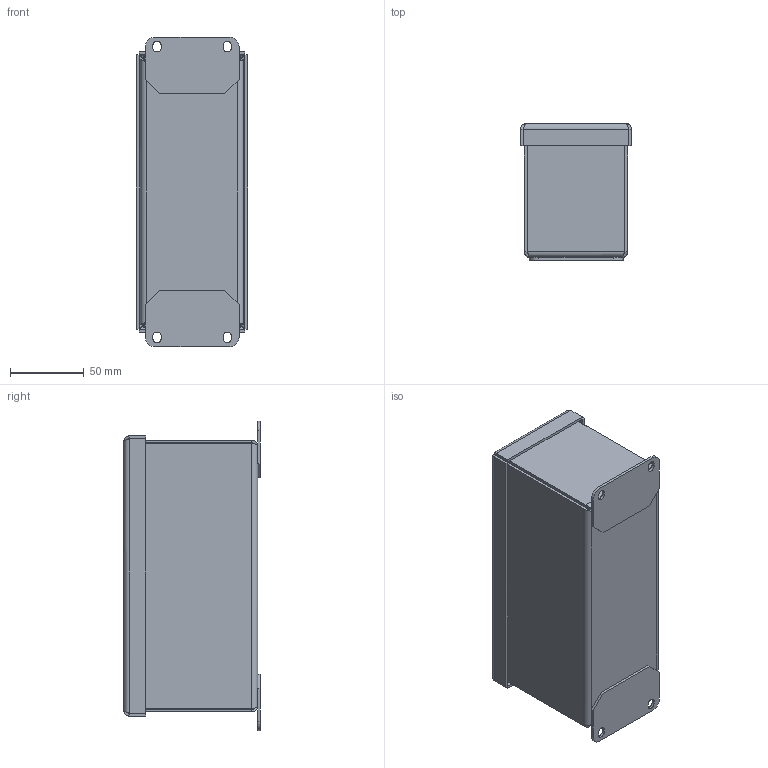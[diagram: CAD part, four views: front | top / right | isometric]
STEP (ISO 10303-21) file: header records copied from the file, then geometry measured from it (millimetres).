
FILE_DESCRIPTION (( 'STEP AP214' ), '1' );
FILE_NAME ('e3pbgxm.STEP', '2007-12-04T20:26:48', ( '' ), ( '' ), 'SwSTEP 2.0', 'SolidWorks 2007', '' );
FILE_SCHEMA (( 'AUTOMOTIVE_DESIGN' ));
Length unit declared in the file: inch
Products named in the file (6): Mounting_Foot_11258787; Body_Pushbutton_3PBGXM; Cover_Pushbutton_E3PBGXM; wmt_cover_E3PBGXM; e3pbgxm; stud_gnd_10-32x500
Assembly tree (6 placements, depth 3):
  e3pbgxm
    wmt_cover_E3PBGXM
      Cover_Pushbutton_E3PBGXM
      stud_gnd_10-32x500
    Body_Pushbutton_3PBGXM
    Mounting_Foot_11258787  x2
Bounding box: 75.44 x 92.56 x 209.55 mm (x, y, z)
Volume: 147866.5 mm3; surface area: 167090 mm2
Topology: 5 solids, 5 shells, 269 faces, 676 edges, 418 vertices
Faces by surface type: plane 187, cylinder 64, bspline 16, cone 2
Entity records: 8589 total; most frequent: CARTESIAN_POINT 2315, ORIENTED_EDGE 1256, DIRECTION 1172, EDGE_CURVE 628, VECTOR 510, LINE 510, VERTEX_POINT 386, AXIS2_PLACEMENT_3D 331
